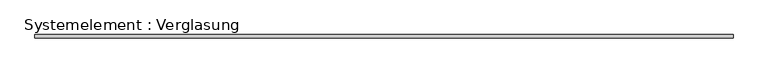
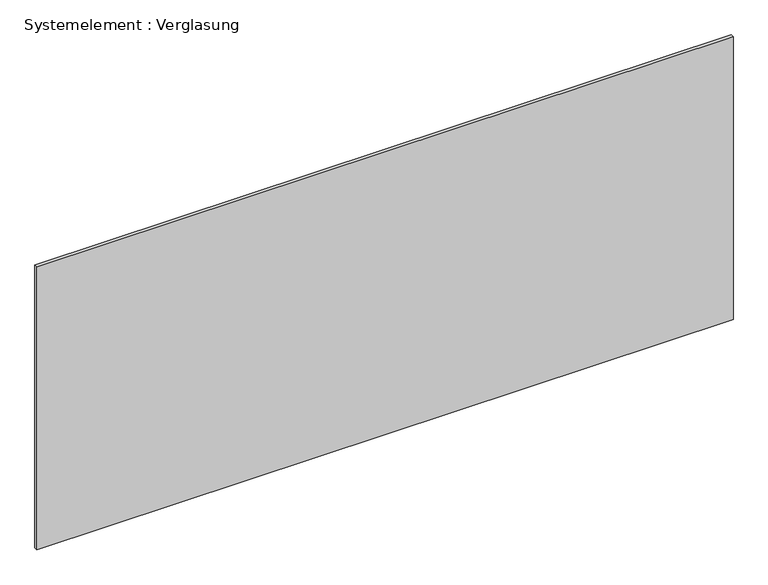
"""IFC4 building model written with IfcOpenShell, lengths in millimetres: plate geometry, Systemelement : Verglasung."""

import ifcopenshell
import ifcopenshell.guid

model = None  # the IFC model being written
_history = None  # IfcOwnerHistory: only IFC2X3 demands one
_inside = {}  # id of a spatial element -> (the spatial element, [elements in it])
_under = {}  # id of a project, library or spatial element -> (it, [spatial elements below it])
_declared = {}  # id of a project -> (the project, [libraries it declares])
_typed = {}  # id of a type object -> (the type object, [elements of that type])
_made_of = {}  # id of a material, layer set ... -> (it, [elements and type objects made of it])


def new_model(schema):
    """Start an empty IFC model of exactly this schema.

    Asked for "IFC4X3", IfcOpenShell would pick the latest addendum, in which some entities
    have other attributes; the version numbers below select the first issue.
    IFC2X3 requires an IfcOwnerHistory on every rooted entity: one is made here for all.
    """
    global model, _history
    if schema == "IFC4X3":
        model = ifcopenshell.file(schema_version=(4, 3, 0, 0))
    else:
        model = ifcopenshell.file(schema=schema)
    _inside.clear()
    _under.clear()
    _declared.clear()
    _typed.clear()
    _made_of.clear()
    _history = None
    if model.schema == "IFC2X3":
        org = make("IfcOrganization", Name="unknown")
        user = make(
            "IfcPersonAndOrganization",
            ThePerson=make("IfcPerson", FamilyName="unknown"),
            TheOrganization=org,
        )
        app = make(
            "IfcApplication",
            ApplicationDeveloper=org,
            Version="unknown",
            ApplicationFullName="unknown",
            ApplicationIdentifier="unknown",
        )
        _history = make(
            "IfcOwnerHistory",
            OwningUser=user,
            OwningApplication=app,
            ChangeAction="ADDED",
            CreationDate=0,
        )
    return model


def make(cls, **values):
    """One entity of the class cls with the attributes given. An attribute that is None is left unset."""
    return model.create_entity(
        cls, **{name: value for name, value in values.items() if value is not None}
    )


def rooted(cls, **values):
    """An entity with a GlobalId (a new one), such as an element, a storey or a relation."""
    return make(cls, GlobalId=ifcopenshell.guid.new(), OwnerHistory=_history, **values)


def si_unit(unit_type, name, prefix=None):
    """IfcSIUnit, for example si_unit("LENGTHUNIT", "METRE", prefix="MILLI")."""
    return make("IfcSIUnit", UnitType=unit_type, Prefix=prefix, Name=name)


def assignment(units):
    """IfcUnitAssignment: the units of a project."""
    return None if units is None else make("IfcUnitAssignment", Units=units)


def point(xyz):
    """IfcCartesianPoint."""
    return None if xyz is None else make("IfcCartesianPoint", Coordinates=xyz)


def direction(xyz):
    """IfcDirection."""
    return None if xyz is None else make("IfcDirection", DirectionRatios=xyz)


def frame(location, z_axis=None, x_axis=None):
    """IfcAxis2Placement3D, a coordinate frame: its origin and axes. An axis left out is left unset."""
    return make(
        "IfcAxis2Placement3D",
        Location=point(location),
        Axis=direction(z_axis),
        RefDirection=direction(x_axis),
    )


def origin():
    """The frame at (0, 0, 0) with its axes left unset."""
    return frame((0.0, 0.0, 0.0))


def origin_with_axes():
    """The frame at (0, 0, 0) with the z axis (0, 0, 1) and the x axis (1, 0, 0) written out."""
    return frame((0.0, 0.0, 0.0), z_axis=(0.0, 0.0, 1.0), x_axis=(1.0, 0.0, 0.0))


def place(relative_to, where):
    """IfcLocalPlacement: puts the frame where relative to a parent placement (None: the world)."""
    return make(
        "IfcLocalPlacement", PlacementRelTo=relative_to, RelativePlacement=where
    )


def context(
    kind, dimensions, precision=None, world=None, true_north=None, identifier=None
):
    """IfcGeometricRepresentationContext, for example the 3D "Model" context."""
    return make(
        "IfcGeometricRepresentationContext",
        ContextIdentifier=identifier,
        ContextType=kind,
        CoordinateSpaceDimension=dimensions,
        Precision=precision,
        WorldCoordinateSystem=world,
        TrueNorth=true_north,
    )


def project(units=None, contexts=None):
    """IfcProject with its units and contexts."""
    return rooted(
        "IfcProject",
        Name="project",
        RepresentationContexts=contexts,
        UnitsInContext=assignment(units),
    )


def spatial(cls, under=None, at=None, **own):
    """A site, building, storey or space (cls), placed at a placement, below another one or the project."""
    s = rooted(cls, ObjectPlacement=at, **own)
    if under is not None:
        _under.setdefault(under.id(), (under, []))[1].append(s)
    return s


def polyline(points):
    """IfcPolyline through the points."""
    return make("IfcPolyline", Points=[point(p) for p in points])


def outline(outer, holes=None, kind="AREA"):
    """IfcArbitraryClosedProfileDef: a profile drawn as a closed curve; with holes, ...WithVoids."""
    if holes is None:
        return make("IfcArbitraryClosedProfileDef", ProfileType=kind, OuterCurve=outer)
    return make(
        "IfcArbitraryProfileDefWithVoids",
        ProfileType=kind,
        OuterCurve=outer,
        InnerCurves=holes,
    )


def extrude(swept, where, along, depth):
    """IfcExtrudedAreaSolid: the profile swept, set in the frame where, extruded along a direction by depth."""
    return make(
        "IfcExtrudedAreaSolid",
        SweptArea=swept,
        Position=where,
        ExtrudedDirection=direction(along),
        Depth=depth,
    )


def shape(context_of_items, identifier, shape_type, items):
    """IfcShapeRepresentation: the items that make up one representation, for example the "Body"."""
    return make(
        "IfcShapeRepresentation",
        ContextOfItems=context_of_items,
        RepresentationIdentifier=identifier,
        RepresentationType=shape_type,
        Items=items,
    )


def source(mapping_origin, context_of_items, identifier, shape_type, items):
    """IfcRepresentationMap: a shape defined once, which mapped items show again and again."""
    return make(
        "IfcRepresentationMap",
        MappingOrigin=mapping_origin,
        MappedRepresentation=shape(context_of_items, identifier, shape_type, items),
    )


def transform(
    local_origin,
    x_axis=None,
    y_axis=None,
    z_axis=None,
    scale=None,
    scale2=None,
    scale3=None,
    uniform=True,
):
    """IfcCartesianTransformationOperator3D, or its non-uniform kind. x_axis, y_axis, z_axis: its Axis1, 2, 3."""
    if uniform:
        return make(
            "IfcCartesianTransformationOperator3D",
            Axis1=direction(x_axis),
            Axis2=direction(y_axis),
            LocalOrigin=point(local_origin),
            Scale=scale,
            Axis3=direction(z_axis),
        )
    return make(
        "IfcCartesianTransformationOperator3DnonUniform",
        Axis1=direction(x_axis),
        Axis2=direction(y_axis),
        LocalOrigin=point(local_origin),
        Scale=scale,
        Axis3=direction(z_axis),
        Scale2=scale2,
        Scale3=scale3,
    )


def mapped(mapping_source, mapping_target):
    """IfcMappedItem: shows the shape of a source again, moved by a transform."""
    return make(
        "IfcMappedItem", MappingSource=mapping_source, MappingTarget=mapping_target
    )


def made_of(thing, what):
    """Note that an element or type object is made of a material, layer set ...; save() writes the relation."""
    if what is not None:
        _made_of.setdefault(what.id(), (what, []))[1].append(thing)
    return thing


def element(
    cls,
    number,
    at=None,
    inside=None,
    cuts=None,
    type_object=None,
    material=None,
    context=None,
    identifier="Body",
    shape_type=None,
    held_by="IfcProductDefinitionShape",
    body=None,
    shapes=None,
    **own,
):
    """One element of the class cls, such as IfcWall. Its Tag is "e" and its number.

    at: its placement. inside: the storey or other place that contains it. cuts: it is an
    opening in that element (IfcRelVoidsElement). A single representation is given by context,
    identifier, shape_type and body (its items); several are given by shapes. held_by: the class
    of the entity that holds the representations. save() writes the other relations.
    """
    e = rooted(cls, Tag="e%d" % number, ObjectPlacement=at, **own)
    if body is not None:
        shapes = [shape(context, identifier, shape_type, body)]
    if shapes is not None:
        e.Representation = make(held_by, Representations=shapes)
    if inside is not None:
        _inside.setdefault(inside.id(), (inside, []))[1].append(e)
    if cuts is not None:
        rooted(
            "IfcRelVoidsElement", RelatingBuildingElement=cuts, RelatedOpeningElement=e
        )
    if type_object is not None:
        _typed.setdefault(type_object.id(), (type_object, []))[1].append(e)
    return made_of(e, material)


def aggregate(whole, parts):
    """IfcRelAggregates: a whole, such as a stair, and the parts it consists of."""
    return rooted("IfcRelAggregates", RelatingObject=whole, RelatedObjects=parts)


def save(model, path):
    """Write the relations noted so far, then the file.

    IfcRelAggregates (storeys below a building ...), IfcRelContainedInSpatialStructure (elements
    in a storey), IfcRelDefinesByType, IfcRelAssociatesMaterial and IfcRelDeclares: one each for
    every whole, place, type object, material and project.
    """
    for whole, parts in _under.values():
        aggregate(whole, parts)
    for where, things in _inside.values():
        rooted(
            "IfcRelContainedInSpatialStructure",
            RelatedElements=things,
            RelatingStructure=where,
        )
    for kind, things in _typed.values():
        rooted("IfcRelDefinesByType", RelatedObjects=things, RelatingType=kind)
    for what, things in _made_of.values():
        rooted("IfcRelAssociatesMaterial", RelatedObjects=things, RelatingMaterial=what)
    for by, libraries in _declared.values():
        rooted("IfcRelDeclares", RelatingContext=by, RelatedDefinitions=libraries)
    model.write(path)


def systemelement_verglasung_6f23034a(model_context):
    return source(origin(), model_context, "Body", "SweptSolid", [
        extrude(outline(polyline([(3200.0, -15.0), (-3200.0, -15.0), (-3200.0, 15.0), (3200.0, 15.0), (3200.0, -15.0)])), origin_with_axes(), (0.0, 0.0, 1.0), 2750.0),
    ])


if __name__ == "__main__":
    model = new_model("IFC4")
    model_context = context("Model", 3, world=origin())
    ifc_project = project(units=[si_unit("LENGTHUNIT", "METRE", prefix="MILLI")], contexts=[model_context])
    site = spatial("IfcSite", under=ifc_project)
    building = spatial("IfcBuilding", under=site)
    placement = place(None, origin())
    systemelement_verglasung_shape = systemelement_verglasung_6f23034a(model_context)
    element("IfcPlate", 1, ObjectType="Systemelement : Verglasung", at=placement, inside=building, context=model_context, shape_type="MappedRepresentation", body=[
        mapped(systemelement_verglasung_shape, transform((0.0, 0.0, 0.0), x_axis=(1.0, 0.0, 0.0), y_axis=(0.0, 1.0, 0.0), z_axis=(0.0, 0.0, 1.0))),
    ])
    save(model, "model.ifc")
